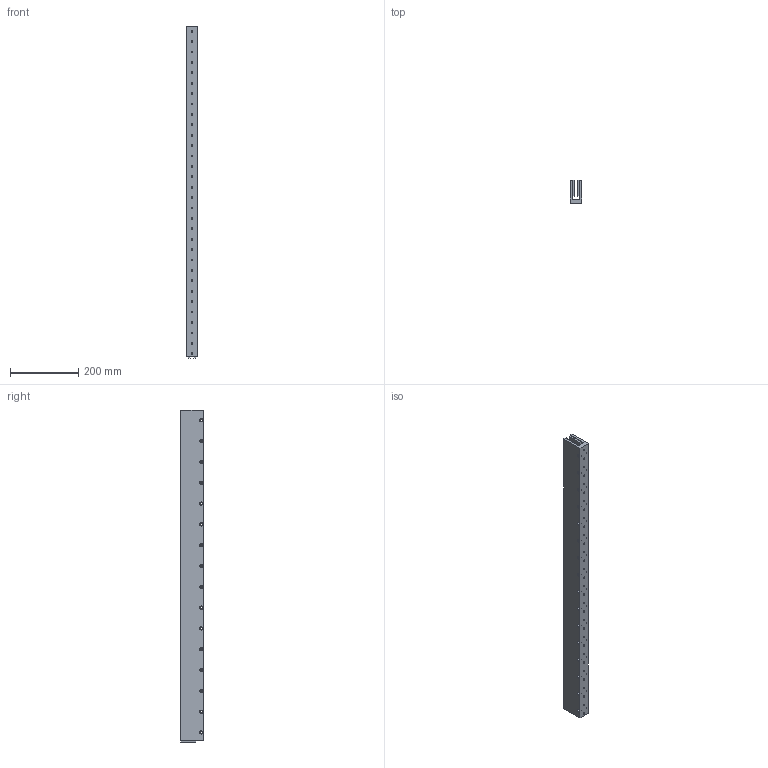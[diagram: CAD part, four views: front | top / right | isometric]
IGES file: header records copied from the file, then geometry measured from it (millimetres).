
Global section: file name: No Iges File Name specified; native system: Autodesk Inventor 2012; preprocessor: AutoDesk Inventor Iges Exporter R2012; author: je17857; date: 20120511.155323; units: inch
Bounding box: 34.29 x 67.31 x 972.71 mm (x, y, z)
Volume: 1428985.8 mm3; surface area: 375208.3 mm2
Topology: 3 solids, 3 shells, 484 faces, 1120 edges, 752 vertices
Faces by surface type: plane 388, revolution 96
